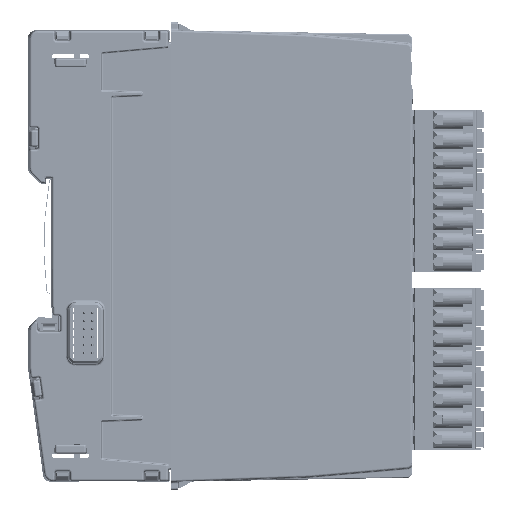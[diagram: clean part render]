
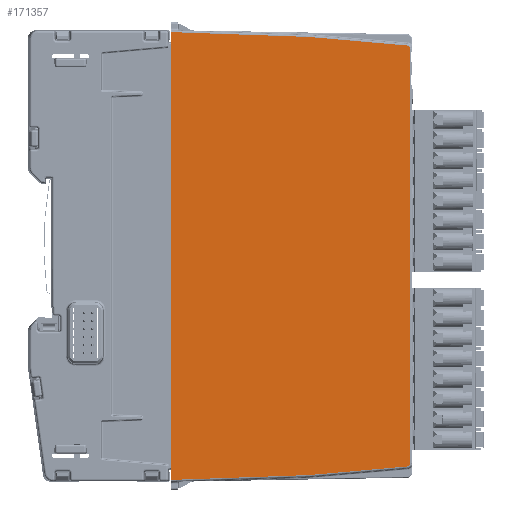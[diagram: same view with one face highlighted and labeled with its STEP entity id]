
A CAD part, left-side view. The second image highlights one B-rep face of the part: STEP entity #171357.
In plain terms, the highlighted planar face has unit normal (-1, -0.018, 0).
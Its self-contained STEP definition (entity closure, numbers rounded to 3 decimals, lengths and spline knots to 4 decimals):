
#14620=FACE_OUTER_BOUND('',#23888,.T.);
#23888=EDGE_LOOP('',(#132274,#132275,#132276,#132277,#132278,#132279,#132280,
#132281,#132282,#132283));
#38022=LINE('',#281955,#55096);
#38024=LINE('',#281964,#55098);
#38025=LINE('',#281966,#55099);
#38026=LINE('',#281970,#55100);
#38027=LINE('',#281973,#55101);
#38028=LINE('',#281975,#55102);
#38029=LINE('',#281977,#55103);
#38030=LINE('',#281978,#55104);
#55096=VECTOR('',#216121,39.3701);
#55098=VECTOR('',#216129,39.3701);
#55099=VECTOR('',#216130,39.3701);
#55100=VECTOR('',#216133,39.3701);
#55101=VECTOR('',#216136,39.3701);
#55102=VECTOR('',#216137,39.3701);
#55103=VECTOR('',#216138,39.3701);
#55104=VECTOR('',#216139,39.3701);
#63408=ELLIPSE('',#183539,0.0315,0.0315);
#63409=ELLIPSE('',#183540,0.0315,0.0315);
#73626=VERTEX_POINT('',#281953);
#73627=VERTEX_POINT('',#281954);
#73630=VERTEX_POINT('',#281962);
#73631=VERTEX_POINT('',#281963);
#73632=VERTEX_POINT('',#281965);
#73633=VERTEX_POINT('',#281967);
#73634=VERTEX_POINT('',#281969);
#73635=VERTEX_POINT('',#281971);
#73636=VERTEX_POINT('',#281974);
#73637=VERTEX_POINT('',#281976);
#94239=EDGE_CURVE('',#73626,#73627,#38022,.T.);
#94243=EDGE_CURVE('',#73630,#73631,#38024,.T.);
#94244=EDGE_CURVE('',#73631,#73632,#38025,.T.);
#94245=EDGE_CURVE('',#73632,#73633,#63408,.T.);
#94246=EDGE_CURVE('',#73633,#73634,#38026,.T.);
#94247=EDGE_CURVE('',#73634,#73635,#63409,.T.);
#94248=EDGE_CURVE('',#73635,#73626,#38027,.T.);
#94249=EDGE_CURVE('',#73627,#73636,#38028,.T.);
#94250=EDGE_CURVE('',#73637,#73636,#38029,.T.);
#94251=EDGE_CURVE('',#73637,#73630,#38030,.T.);
#132274=ORIENTED_EDGE('',*,*,#94243,.T.);
#132275=ORIENTED_EDGE('',*,*,#94244,.T.);
#132276=ORIENTED_EDGE('',*,*,#94245,.T.);
#132277=ORIENTED_EDGE('',*,*,#94246,.T.);
#132278=ORIENTED_EDGE('',*,*,#94247,.T.);
#132279=ORIENTED_EDGE('',*,*,#94248,.T.);
#132280=ORIENTED_EDGE('',*,*,#94239,.T.);
#132281=ORIENTED_EDGE('',*,*,#94249,.T.);
#132282=ORIENTED_EDGE('',*,*,#94250,.F.);
#132283=ORIENTED_EDGE('',*,*,#94251,.T.);
#155222=PLANE('',#183538);
#171357=ADVANCED_FACE('',(#14620),#155222,.T.);
#183538=AXIS2_PLACEMENT_3D('',#281961,#216127,#216128);
#183539=AXIS2_PLACEMENT_3D('',#281968,#216131,#216132);
#183540=AXIS2_PLACEMENT_3D('',#281972,#216134,#216135);
#216121=DIRECTION('',(-0.017,0.999,0.035));
#216127=DIRECTION('center_axis',(-1.,-0.017,
0.));
#216128=DIRECTION('ref_axis',(-0.017,1.,0.));
#216129=DIRECTION('',(0.017,-0.999,0.035));
#216130=DIRECTION('',(0.017,-0.996,0.087));
#216131=DIRECTION('center_axis',(-1.,-0.017,
0.));
#216132=DIRECTION('ref_axis',(0.017,-1.,0.));
#216133=DIRECTION('',(0.,0.,1.));
#216134=DIRECTION('center_axis',(-1.,-0.017,
0.));
#216135=DIRECTION('ref_axis',(0.017,-1.,0.));
#216136=DIRECTION('',(-0.017,0.996,0.087));
#216137=DIRECTION('',(0.,0.,-1.));
#216138=DIRECTION('',(0.,0.,1.));
#216139=DIRECTION('',(0.,0.,-1.));
#281953=CARTESIAN_POINT('',(0.0007,-2.2205,0.0616));
#281954=CARTESIAN_POINT('',(-0.0227,-0.8827,0.1083));
#281955=CARTESIAN_POINT('',(-0.0282,-0.5654,0.1194));
#281961=CARTESIAN_POINT('Origin',(-0.0296,-0.489,
-2.0669));
#281962=CARTESIAN_POINT('',(-0.0227,-0.8827,-4.2421));
#281963=CARTESIAN_POINT('',(0.0007,-2.2205,-4.1954));
#281964=CARTESIAN_POINT('',(-0.0282,-0.5654,-4.2532));
#281965=CARTESIAN_POINT('',(0.0174,-3.1772,-4.1117));
#281966=CARTESIAN_POINT('',(-0.0261,-0.6869,-4.3296));
#281967=CARTESIAN_POINT('',(0.0179,-3.2059,-4.0803));
#281968=CARTESIAN_POINT('Origin',(0.0173,-3.1744,
-4.0803));
#281969=CARTESIAN_POINT('',(0.0179,-3.2059,-0.0535));
#281970=CARTESIAN_POINT('',(0.0179,-3.2059,-0.0535));
#281971=CARTESIAN_POINT('',(0.0174,-3.1772,-0.0221));
#281972=CARTESIAN_POINT('Origin',(0.0173,-3.1744,
-0.0535));
#281973=CARTESIAN_POINT('',(-0.0261,-0.6869,0.1957));
#281974=CARTESIAN_POINT('',(-0.0227,-0.8827,-0.0312));
#281975=CARTESIAN_POINT('',(-0.0227,-0.8827,0.128));
#281976=CARTESIAN_POINT('',(-0.0227,-0.8827,-4.1027));
#281977=CARTESIAN_POINT('',(-0.0227,-0.8827,-7.5932));
#281978=CARTESIAN_POINT('',(-0.0227,-0.8827,0.128));
